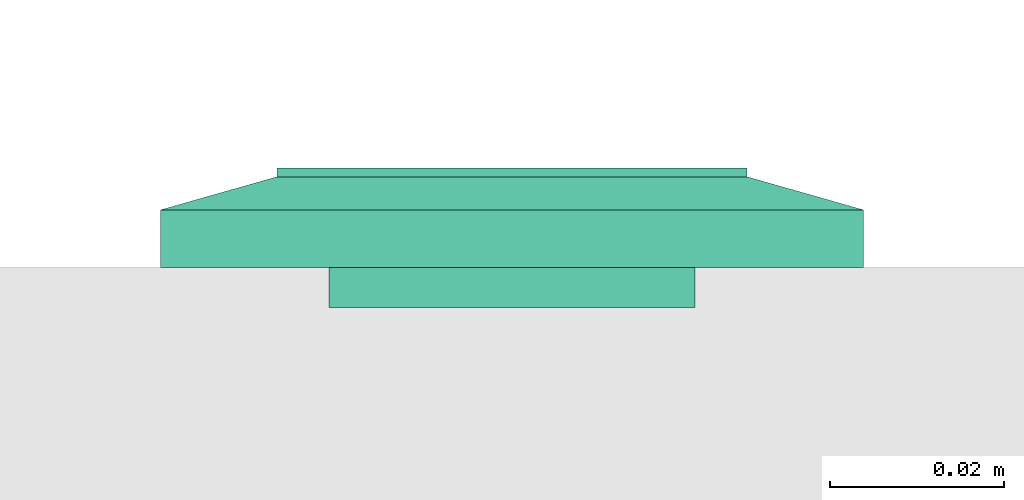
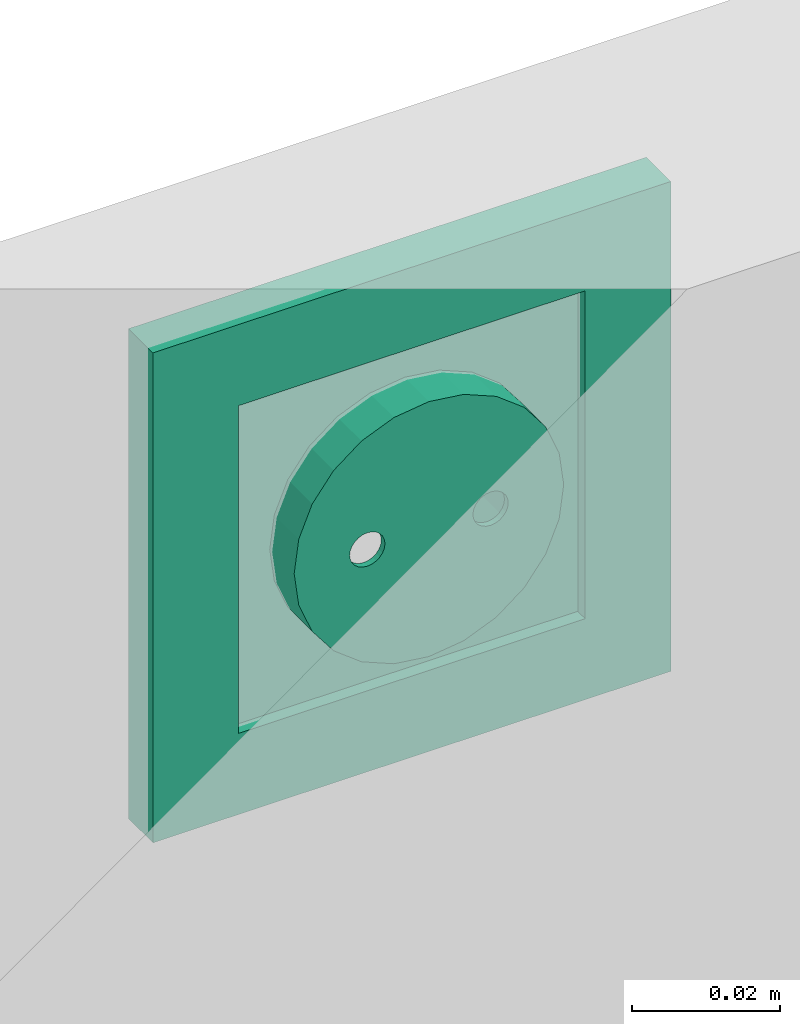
# One storey, part 90 of 153: 1 flow terminal.
"""IFC2X3 building model written with IfcOpenShell, lengths in metres."""

from ifc_helpers import new_model, entity, si_unit, converted_unit, derived_unit, direction, frame, origin, place, context, subcontext, project, spatial, face_set, surface_model, source, transform, mapped, type_object, type_shapes, element, save


model = new_model("IFC2X3")

# Units and contexts
model_context = context("Model", 3, precision=1e-05, world=origin(), true_north=direction((6.12303176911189e-17, 1.0)))
body_context = subcontext(model_context, "Body", "Model", "MODEL_VIEW")
ifc_project = project(units=[si_unit("LENGTHUNIT", "METRE"), si_unit("AREAUNIT", "SQUARE_METRE"), si_unit("VOLUMEUNIT", "CUBIC_METRE"), converted_unit("PLANEANGLEUNIT", "DEGREE", entity("IfcRatioMeasure", 0.0174532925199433), si_unit("PLANEANGLEUNIT", "RADIAN"), dimensions=[0, 0, 0, 0, 0, 0, 0]), si_unit("MASSUNIT", "GRAM", prefix="KILO"), derived_unit("MASSDENSITYUNIT", [(si_unit("MASSUNIT", "GRAM", prefix="KILO"), 1), (si_unit("LENGTHUNIT", "METRE"), -3)]), si_unit("TIMEUNIT", "SECOND"), si_unit("FREQUENCYUNIT", "HERTZ"), si_unit("THERMODYNAMICTEMPERATUREUNIT", "DEGREE_CELSIUS"), derived_unit("THERMALTRANSMITTANCEUNIT", [(si_unit("MASSUNIT", "GRAM", prefix="KILO"), 1), (si_unit("THERMODYNAMICTEMPERATUREUNIT", "KELVIN"), -1), (si_unit("TIMEUNIT", "SECOND"), -3)]), derived_unit("VOLUMETRICFLOWRATEUNIT", [(si_unit("LENGTHUNIT", "METRE"), 3), (si_unit("TIMEUNIT", "SECOND"), -1)]), si_unit("ELECTRICCURRENTUNIT", "AMPERE"), si_unit("ELECTRICVOLTAGEUNIT", "VOLT"), si_unit("POWERUNIT", "WATT"), si_unit("FORCEUNIT", "NEWTON"), si_unit("ILLUMINANCEUNIT", "LUX"), si_unit("LUMINOUSFLUXUNIT", "LUMEN"), si_unit("LUMINOUSINTENSITYUNIT", "CANDELA"), derived_unit("USERDEFINED", [(si_unit("MASSUNIT", "GRAM", prefix="KILO"), -1), (si_unit("LENGTHUNIT", "METRE"), -2), (si_unit("TIMEUNIT", "SECOND"), 3), (si_unit("LUMINOUSFLUXUNIT", "LUMEN"), 1)]), derived_unit("LINEARVELOCITYUNIT", [(si_unit("LENGTHUNIT", "METRE"), 1), (si_unit("TIMEUNIT", "SECOND"), -1)]), si_unit("PRESSUREUNIT", "PASCAL"), derived_unit("USERDEFINED", [(si_unit("LENGTHUNIT", "METRE"), -2), (si_unit("MASSUNIT", "GRAM", prefix="KILO"), 1), (si_unit("TIMEUNIT", "SECOND"), -2)])], contexts=[model_context])

# Site, building, storey
site_placement = place(None, origin())
site = spatial("IfcSite", under=ifc_project, at=site_placement, Name="Default", CompositionType="ELEMENT")
building_placement = place(site_placement, origin())
building = spatial("IfcBuilding", under=site, at=building_placement, CompositionType="ELEMENT")
storey_placement = place(building_placement, frame((0.0, 0.0, -4.62)))
storey = spatial("IfcBuildingStorey", under=building, at=storey_placement, Name="S02", CompositionType="ELEMENT", Elevation=-4.62)

# Flow terminal
light_fixture_type = type_object("IfcLightFixtureType", Name="IP20 ONDULEE", PredefinedType="NOTDEFINED")
shared_shape = source(origin(), body_context, "Body", "SurfaceModel", [
    surface_model("IfcFaceBasedSurfaceModel", [(-0.00225000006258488, 0.0127499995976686, 0.00949633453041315), (0.0, 0.0104999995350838, 0.00949633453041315), (0.0, 0.0115376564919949, 0.0101656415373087), (0.0, 0.0139623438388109, 0.0101656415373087), (0.0, 0.0144589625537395, 0.00984531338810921), (0.0, 0.0121178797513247, 0.0102778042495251), (0.0, 0.0133821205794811, 0.0102778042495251), (0.0, 0.0127499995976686, 0.010399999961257), (0.0, 0.0149999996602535, 0.00949633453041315), (0.00225000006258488, 0.0127499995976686, 0.00949633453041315), (0.0, 0.0110410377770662, 0.00984531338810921), (0.0, 0.0127499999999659, 0.00949633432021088), (0.00225000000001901, 0.0127499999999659, 0.00949633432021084), (0.00217333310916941, 0.0121676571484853, 0.00949633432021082), (0.00194855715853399, 0.0116249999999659, 0.00949633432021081), (0.00159099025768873, 0.0111590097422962, 0.00949633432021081), (0.001125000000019, 0.010801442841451, 0.00949633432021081), (0.00058234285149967, 0.0105766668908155, 0.00949633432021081), (0.0, 0.0104999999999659, 0.00949633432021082), (-0.000582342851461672, 0.0105766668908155, 0.00949633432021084), (-0.001124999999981, 0.010801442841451, 0.00949633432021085), (-0.00159099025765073, 0.0111590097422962, 0.00949633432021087), (-0.00194855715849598, 0.011624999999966, 0.00949633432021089), (-0.0021733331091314, 0.0121676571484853, 0.00949633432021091), (-0.00224999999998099, 0.012749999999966, 0.00949633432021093), (-0.00217333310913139, 0.0133323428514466, 0.00949633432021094), (-0.00194855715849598, 0.013874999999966, 0.00949633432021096), (-0.00159099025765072, 0.0143409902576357, 0.00949633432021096), (-0.00112499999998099, 0.0146985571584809, 0.00949633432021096), (-0.00058234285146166, 0.0149233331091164, 0.00949633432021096), (0.0, 0.0149999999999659, 0.00949633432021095), (0.000582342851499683, 0.0149233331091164, 0.00949633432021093), (0.00112500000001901, 0.0146985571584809, 0.00949633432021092), (0.00159099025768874, 0.0143409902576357, 0.00949633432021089), (0.001948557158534, 0.0138749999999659, 0.00949633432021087), (0.00217333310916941, 0.0133323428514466, 0.00949633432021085), (0.00225000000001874, 0.0127499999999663, -0.00360000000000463), (0.00217333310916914, 0.0121676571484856, -0.00360000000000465), (0.00194855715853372, 0.0116249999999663, -0.00360000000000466), (0.00159099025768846, 0.0111590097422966, -0.00360000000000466), (0.00112500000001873, 0.0108014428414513, -0.00360000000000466), (0.000582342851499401, 0.0105766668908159, -0.00360000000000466), (0.0, 0.0104999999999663, -0.00360000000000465), (-0.000582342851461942, 0.0105766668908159, -0.00360000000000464), (-0.00112499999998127, 0.0108014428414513, -0.00360000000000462), (-0.001590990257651, 0.0111590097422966, -0.0036000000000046), (-0.00194855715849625, 0.0116249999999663, -0.00360000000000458), (-0.00217333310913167, 0.0121676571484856, -0.00360000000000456), (-0.00224999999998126, 0.0127499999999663, -0.00360000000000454), (-0.00217333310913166, 0.013332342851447, -0.00360000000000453), (-0.00194855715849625, 0.0138749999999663, -0.00360000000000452), (-0.00159099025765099, 0.014340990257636, -0.00360000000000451), (-0.00112499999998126, 0.0146985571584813, -0.00360000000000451), (-0.000582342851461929, 0.0149233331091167, -0.00360000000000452), (0.0, 0.0149999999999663, -0.00360000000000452), (0.000582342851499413, 0.0149233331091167, -0.00360000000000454), (0.00112500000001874, 0.0146985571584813, -0.00360000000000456), (0.00159099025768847, 0.014340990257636, -0.00360000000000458), (0.00194855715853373, 0.0138749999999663, -0.0036000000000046), (0.00217333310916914, 0.013332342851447, -0.00360000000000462), (0.0270000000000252, 0.026999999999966, 0.0113999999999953), (-0.0269999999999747, 0.026999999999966, 0.0113999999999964), (-0.0269999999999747, -0.0270000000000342, 0.0113999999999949), (0.0270000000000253, -0.0270000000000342, 0.0113999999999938), (-0.0199999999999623, 0.0, 0.0113999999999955), (-0.0193185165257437, -0.00517638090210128, 0.0113999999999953), (-0.0173205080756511, -0.0100000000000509, 0.0113999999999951), (-0.0141421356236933, -0.0141421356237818, 0.011399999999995), (-0.00999999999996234, -0.0173205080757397, 0.0113999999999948), (-0.00517638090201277, -0.0193185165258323, 0.0113999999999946), (0.0, -0.0200000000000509, 0.0113999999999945), (0.00517638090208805, -0.0193185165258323, 0.0113999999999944), (0.0100000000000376, -0.0173205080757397, 0.0113999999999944), (0.0141421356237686, -0.0141421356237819, 0.0113999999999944), (0.0173205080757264, -0.010000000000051, 0.0113999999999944), (0.0193185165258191, -0.00517638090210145, 0.0113999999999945), (0.0200000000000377, 0.0, 0.0113999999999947), (0.0193185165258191, 0.00517638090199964, 0.0113999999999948), (0.0173205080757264, 0.0099999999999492, 0.011399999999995), (0.0141421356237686, 0.0141421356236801, 0.0113999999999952), (0.0100000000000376, 0.0173205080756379, 0.0113999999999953), (0.00517638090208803, 0.0193185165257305, 0.0113999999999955), (0.0, 0.0199999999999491, 0.0113999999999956), (-0.00517638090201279, 0.0193185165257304, 0.0113999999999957), (-0.00999999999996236, 0.0173205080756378, 0.0113999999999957), (-0.0141421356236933, 0.01414213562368, 0.0113999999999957), (-0.0173205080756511, 0.00999999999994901, 0.0113999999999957), (-0.0193185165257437, 0.00517638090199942, 0.0113999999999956), (0.0270000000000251, 0.0269999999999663, 0.00199999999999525), (0.0270000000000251, -0.0270000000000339, 0.00199999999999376), (-0.0269999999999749, -0.0270000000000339, 0.00199999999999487), (-0.0269999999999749, 0.0269999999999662, 0.00199999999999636), (0.0210000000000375, 0.0, 0.00199999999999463), (0.0202844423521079, -0.00543519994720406, 0.00199999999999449), (0.0181865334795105, -0.0105000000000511, 0.0019999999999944), (0.0148492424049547, -0.0148492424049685, 0.00199999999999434), (0.0105000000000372, -0.0181865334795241, 0.00199999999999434), (0.0054351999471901, -0.0202844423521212, 0.00199999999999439), (0.0, -0.0210000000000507, 0.00199999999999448), (-0.00543519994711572, -0.020284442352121, 0.00199999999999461), (-0.0104999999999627, -0.0181865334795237, 0.00199999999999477), (-0.0148492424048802, -0.014849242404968, 0.00199999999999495), (-0.0181865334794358, -0.0105000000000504, 0.00199999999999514), (-0.020284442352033, -0.00543519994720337, 0.00199999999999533), (-0.0209999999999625, 0.0, 0.00199999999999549), (-0.0202844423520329, 0.0054351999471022, 0.00199999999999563), (-0.0181865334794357, 0.0104999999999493, 0.00199999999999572), (-0.01484924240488, 0.0148492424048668, 0.00199999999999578), (-0.0104999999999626, 0.0181865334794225, 0.00199999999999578), (-0.00543519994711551, 0.0202844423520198, 0.00199999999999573), (0.0, 0.0209999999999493, 0.00199999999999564), (0.00543519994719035, 0.0202844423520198, 0.00199999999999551), (0.0105000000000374, 0.0181865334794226, 0.00199999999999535), (0.0148492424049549, 0.0148492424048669, 0.00199999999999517), (0.0181865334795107, 0.0104999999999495, 0.00199999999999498), (0.0202844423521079, 0.00543519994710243, 0.00199999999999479), (0.0200000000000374, 0.0, -0.00360000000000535), (0.0193185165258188, -0.00517638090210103, -0.00360000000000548), (0.0173205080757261, -0.0100000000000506, -0.00360000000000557), (0.0141421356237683, -0.0141421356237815, -0.00360000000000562), (0.0100000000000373, -0.0173205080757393, -0.00360000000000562), (0.00517638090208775, -0.0193185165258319, -0.00360000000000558), (0.0, -0.0200000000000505, -0.00360000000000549), (-0.00517638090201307, -0.0193185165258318, -0.00360000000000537), (-0.00999999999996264, -0.0173205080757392, -0.00360000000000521), (-0.0141421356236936, -0.0141421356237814, -0.00360000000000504), (-0.0173205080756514, -0.0100000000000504, -0.00360000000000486), (-0.019318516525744, -0.00517638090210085, -0.00360000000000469), (-0.0199999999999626, 0.0, -0.00360000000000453), (-0.0193185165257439, 0.00517638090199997, -0.0036000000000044), (-0.0173205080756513, 0.00999999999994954, -0.00360000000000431), (-0.0141421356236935, 0.0141421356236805, -0.00360000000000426), (-0.00999999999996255, 0.0173205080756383, -0.00360000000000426), (-0.00517638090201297, 0.0193185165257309, -0.0036000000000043), (0.0, 0.0199999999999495, -0.00360000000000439), (0.00517638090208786, 0.0193185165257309, -0.00360000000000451), (0.0100000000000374, 0.0173205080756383, -0.00360000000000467), (0.0141421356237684, 0.0141421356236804, -0.00360000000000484), (0.0173205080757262, 0.0099999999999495, -0.00360000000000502), (0.0193185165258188, 0.00517638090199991, -0.00360000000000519), (-0.0123499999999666, 0.0, -0.00360000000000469), (-0.0122562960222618, -0.000711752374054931, -0.00360000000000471), (-0.0119815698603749, -0.00137500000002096, -0.00360000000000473), (-0.0115445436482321, -0.00194454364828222, -0.00360000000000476), (-0.0109749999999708, -0.00238156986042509, -0.00360000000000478), (-0.0103117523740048, -0.00265629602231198, -0.0036000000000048), (-0.00959999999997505, -0.00275000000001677, -0.00360000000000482), (-0.0088882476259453, -0.00265629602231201, -0.00360000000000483), (-0.00822499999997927, -0.00238156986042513, -0.00360000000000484), (-0.00765545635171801, -0.00194454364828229, -0.00360000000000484), (-0.00721843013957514, -0.00137500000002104, -0.00360000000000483), (-0.00694370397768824, -0.000711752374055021, -0.00360000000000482), (-0.00684999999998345, 0.0, -0.0036000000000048), (-0.00694370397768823, 0.000711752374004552, -0.00360000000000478), (-0.00721843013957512, 0.00137499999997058, -0.00360000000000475), (-0.00765545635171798, 0.00194454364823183, -0.00360000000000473), (-0.00822499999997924, 0.00238156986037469, -0.0036000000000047), (-0.00888824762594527, 0.00265629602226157, -0.00360000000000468), (-0.00959999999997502, 0.00274999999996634, -0.00360000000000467), (-0.0103117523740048, 0.00265629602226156, -0.00360000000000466), (-0.0109749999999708, 0.00238156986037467, -0.00360000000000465), (-0.011544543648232, 0.00194454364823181, -0.00360000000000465), (-0.0119815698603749, 0.00137499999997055, -0.00360000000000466), (-0.0122562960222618, 0.000711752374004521, -0.00360000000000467), (0.00685000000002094, 0.0, -0.00360000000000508), (0.0069437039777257, -0.00071175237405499, -0.0036000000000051), (0.00721843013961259, -0.00137500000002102, -0.00360000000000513), (0.00765545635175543, -0.00194454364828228, -0.00360000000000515), (0.00822500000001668, -0.00238156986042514, -0.00360000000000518), (0.00888824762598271, -0.00265629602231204, -0.0036000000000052), (0.00960000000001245, -0.00275000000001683, -0.00360000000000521), (0.0103117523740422, -0.00265629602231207, -0.00360000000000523), (0.0109750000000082, -0.00238156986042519, -0.00360000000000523), (0.0115445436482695, -0.00194454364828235, -0.00360000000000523), (0.0119815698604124, -0.0013750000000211, -0.00360000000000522), (0.0122562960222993, -0.00071175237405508, -0.00360000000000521), (0.012350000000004, 0.0, -0.00360000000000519), (0.0122562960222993, 0.000711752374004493, -0.00360000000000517), (0.0119815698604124, 0.00137499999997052, -0.00360000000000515), (0.0115445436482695, 0.00194454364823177, -0.00360000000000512), (0.0109750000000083, 0.00238156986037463, -0.0036000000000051), (0.0103117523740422, 0.00265629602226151, -0.00360000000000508), (0.00960000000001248, 0.00274999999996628, -0.00360000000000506), (0.00888824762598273, 0.0026562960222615, -0.00360000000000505), (0.0082250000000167, 0.00238156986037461, -0.00360000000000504), (0.00765545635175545, 0.00194454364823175, -0.00360000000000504), (0.0072184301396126, 0.00137499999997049, -0.00360000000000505), (0.00694370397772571, 0.000711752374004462, -0.00360000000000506), (0.0210000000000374, 0.0, -0.00460000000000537), (0.0202844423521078, -0.00543519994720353, -0.00460000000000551), (0.0181865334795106, -0.0105000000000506, -0.0046000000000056), (0.0148492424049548, -0.0148492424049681, -0.00460000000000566), (0.0105000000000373, -0.0181865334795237, -0.00460000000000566), (0.00543519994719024, -0.0202844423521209, -0.00460000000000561), (0.0, -0.0210000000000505, -0.00460000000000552), (-0.00543519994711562, -0.0202844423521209, -0.00460000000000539), (-0.0104999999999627, -0.0181865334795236, -0.00460000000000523), (-0.0148492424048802, -0.0148492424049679, -0.00460000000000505), (-0.0181865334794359, -0.0105000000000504, -0.00460000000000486), (-0.0202844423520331, -0.00543519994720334, -0.00460000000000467), (-0.0209999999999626, 0.0, -0.00460000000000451), (-0.020284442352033, 0.00543519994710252, -0.00460000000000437), (-0.0181865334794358, 0.0104999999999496, -0.00460000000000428), (-0.0148492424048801, 0.0148492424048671, -0.00460000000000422), (-0.0104999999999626, 0.0181865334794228, -0.00460000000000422), (-0.00543519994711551, 0.02028444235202, -0.00460000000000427), (0.0, 0.0209999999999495, -0.00460000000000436), (0.00543519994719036, 0.02028444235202, -0.00460000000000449), (0.0105000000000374, 0.0181865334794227, -0.00460000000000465), (0.0148492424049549, 0.014849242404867, -0.00460000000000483), (0.0181865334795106, 0.0104999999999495, -0.00460000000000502), (0.0202844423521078, 0.00543519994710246, -0.00460000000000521), (-0.00684999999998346, 0.0, -0.0046000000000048), (-0.00694370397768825, 0.000711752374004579, -0.00460000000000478), (-0.00721843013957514, 0.00137499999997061, -0.00460000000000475), (-0.007655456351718, 0.00194454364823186, -0.00460000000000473), (-0.00822499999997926, 0.00238156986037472, -0.0046000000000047), (-0.00888824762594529, 0.0026562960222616, -0.00460000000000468), (-0.00959999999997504, 0.00274999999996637, -0.00460000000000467), (-0.0103117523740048, 0.00265629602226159, -0.00460000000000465), (-0.0109749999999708, 0.0023815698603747, -0.00460000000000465), (-0.0115445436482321, 0.00194454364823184, -0.00460000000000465), (-0.0119815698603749, 0.00137499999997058, -0.00460000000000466), (-0.0122562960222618, 0.000711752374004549, -0.00460000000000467), (-0.0123499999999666, 0.0, -0.00460000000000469), (-0.0122562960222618, -0.000711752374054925, -0.00460000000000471), (-0.0119815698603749, -0.00137500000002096, -0.00460000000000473), (-0.0115445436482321, -0.00194454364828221, -0.00460000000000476), (-0.0109749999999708, -0.00238156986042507, -0.00460000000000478), (-0.0103117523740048, -0.00265629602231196, -0.0046000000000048), (-0.00959999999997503, -0.00275000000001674, -0.00460000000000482), (-0.00888824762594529, -0.00265629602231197, -0.00460000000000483), (-0.00822499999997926, -0.00238156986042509, -0.00460000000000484), (-0.007655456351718, -0.00194454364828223, -0.00460000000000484), (-0.00721843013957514, -0.00137500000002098, -0.00460000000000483), (-0.00694370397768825, -0.000711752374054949, -0.00460000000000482), (0.012350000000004, 0.0, -0.00460000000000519), (0.0122562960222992, 0.000711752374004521, -0.00460000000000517), (0.0119815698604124, 0.00137499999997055, -0.00460000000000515), (0.0115445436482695, 0.0019445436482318, -0.00460000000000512), (0.0109750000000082, 0.00238156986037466, -0.0046000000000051), (0.0103117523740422, 0.00265629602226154, -0.00460000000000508), (0.00960000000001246, 0.00274999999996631, -0.00460000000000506), (0.00888824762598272, 0.00265629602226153, -0.00460000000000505), (0.00822500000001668, 0.00238156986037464, -0.00460000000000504), (0.00765545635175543, 0.00194454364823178, -0.00460000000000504), (0.00721843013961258, 0.00137499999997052, -0.00460000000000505), (0.00694370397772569, 0.00071175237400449, -0.00460000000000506), (0.00685000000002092, 0.0, -0.00460000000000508), (0.00694370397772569, -0.000711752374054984, -0.0046000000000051), (0.00721843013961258, -0.00137500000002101, -0.00460000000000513), (0.00765545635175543, -0.00194454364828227, -0.00460000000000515), (0.00822500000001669, -0.00238156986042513, -0.00460000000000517), (0.00888824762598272, -0.00265629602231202, -0.0046000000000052), (0.00960000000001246, -0.0027500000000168, -0.00460000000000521), (0.0103117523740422, -0.00265629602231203, -0.00460000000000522), (0.0109750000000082, -0.00238156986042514, -0.00460000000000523), (0.0115445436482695, -0.00194454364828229, -0.00460000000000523), (0.0119815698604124, -0.00137500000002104, -0.00460000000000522), (0.0122562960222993, -0.000711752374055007, -0.00460000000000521), (0.040350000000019, 0.0403499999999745, 0.00659999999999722), (0.040350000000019, -0.0403500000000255, 0.00659999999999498), (-0.0403499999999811, -0.0403500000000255, 0.00659999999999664), (-0.0403499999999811, 0.0403499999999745, 0.00659999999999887), (0.027000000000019, 0.0269999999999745, 0.00659999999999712), (-0.0269999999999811, 0.0269999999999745, 0.00659999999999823), (-0.026999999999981, -0.0270000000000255, 0.00659999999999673), (0.027000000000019, -0.0270000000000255, 0.00659999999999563), (0.027000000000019, 0.0269999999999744, 0.0103999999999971), (-0.026999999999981, 0.0269999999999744, 0.0103999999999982), (-0.026999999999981, -0.0270000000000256, 0.0103999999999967), (0.027000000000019, -0.0270000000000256, 0.0103999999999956), (0.040350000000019, 0.0403499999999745, 0.00659999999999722), (0.040350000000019, -0.0403500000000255, 0.00659999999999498), (-0.0403499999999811, -0.0403500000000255, 0.00659999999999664), (-0.0403499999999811, 0.0403499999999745, 0.00659999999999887), (-0.0269999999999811, 0.0269999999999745, 0.00659999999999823), (-0.0269999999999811, -0.0270000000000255, 0.00659999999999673), (0.0270000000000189, -0.0270000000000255, 0.00659999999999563), (0.0270000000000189, 0.0269999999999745, 0.00659999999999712), (0.0403500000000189, 0.0403499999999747, 0.0), (0.0403500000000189, -0.0403500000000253, 0.0), (-0.0403499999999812, -0.0403500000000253, 0.0), (-0.0403499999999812, 0.0403499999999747, 0.0), (0.0270000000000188, 0.0269999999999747, 0.0), (-0.0269999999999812, 0.0269999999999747, 0.0), (-0.0269999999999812, -0.0270000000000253, 0.0), (0.0270000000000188, -0.0270000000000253, 0.0)], [face_set([[[0, 1, 2]], [[3, 4, 2, 5]], [[6, 3, 5, 7]], [[2, 4, 0]], [[4, 8, 0]], [[3, 9, 8]], [[1, 9, 10]], [[2, 3, 6, 7]], [[3, 10, 9]], [[2, 10, 3]], [[11, 1, 0, 8]], [[11, 8, 9, 1]]]), face_set([[[12, 13, 14, 15, 16, 17, 18, 19, 20, 21, 22, 23, 24, 25, 26, 27, 28, 29, 30, 31, 32, 33, 34, 35]], [[36, 37, 38, 39, 40, 41, 42, 43, 44, 45, 46, 47, 48, 49, 50, 51, 52, 53, 54, 55, 56, 57, 58, 59]], [[48, 47, 23, 24]], [[47, 46, 22, 23]], [[45, 44, 20, 21]], [[46, 45, 21, 22]], [[44, 43, 19, 20]], [[18, 19, 43, 42]], [[42, 41, 17, 18]], [[41, 40, 16, 17]], [[39, 38, 14, 15]], [[40, 39, 15, 16]], [[38, 37, 13, 14]], [[12, 13, 37, 36]], [[36, 59, 35, 12]], [[59, 58, 34, 35]], [[57, 56, 32, 33]], [[58, 57, 33, 34]], [[56, 55, 31, 32]], [[30, 31, 55, 54]], [[54, 53, 29, 30]], [[53, 52, 28, 29]], [[51, 50, 26, 27]], [[52, 51, 27, 28]], [[50, 49, 25, 26]], [[24, 25, 49, 48]]]), face_set([[[60, 61, 62, 63], [64, 65, 66, 67, 68, 69, 70, 71, 72, 73, 74, 75, 76, 77, 78, 79, 80, 81, 82, 83, 84, 85, 86, 87]], [[88, 89, 90, 91], [92, 93, 94, 95, 96, 97, 98, 99, 100, 101, 102, 103, 104, 105, 106, 107, 108, 109, 110, 111, 112, 113, 114, 115]], [[61, 60, 88, 91]], [[62, 61, 91, 90]], [[63, 62, 90, 89]], [[60, 63, 89, 88]], [[116, 117, 118, 119, 120, 121, 122, 123, 124, 125, 126, 127, 128, 129, 130, 131, 132, 133, 134, 135, 136, 137, 138, 139], [140, 141, 142, 143, 144, 145, 146, 147, 148, 149, 150, 151, 152, 153, 154, 155, 156, 157, 158, 159, 160, 161, 162, 163], [164, 165, 166, 167, 168, 169, 170, 171, 172, 173, 174, 175, 176, 177, 178, 179, 180, 181, 182, 183, 184, 185, 186, 187]], [[64, 128, 127, 65]], [[65, 127, 126, 66]], [[67, 125, 124, 68]], [[66, 126, 125, 67]], [[68, 124, 123, 69]], [[122, 70, 69, 123]], [[70, 122, 121, 71]], [[71, 121, 120, 72]], [[73, 119, 118, 74]], [[72, 120, 119, 73]], [[74, 118, 117, 75]], [[116, 76, 75, 117]], [[76, 116, 139, 77]], [[77, 139, 138, 78]], [[79, 137, 136, 80]], [[78, 138, 137, 79]], [[80, 136, 135, 81]], [[134, 82, 81, 135]], [[82, 134, 133, 83]], [[83, 133, 132, 84]], [[84, 132, 131, 85]], [[85, 131, 130, 86]], [[130, 129, 87, 86]], [[64, 87, 129, 128]], [[188, 189, 190, 191, 192, 193, 194, 195, 196, 197, 198, 199, 200, 201, 202, 203, 204, 205, 206, 207, 208, 209, 210, 211], [212, 213, 214, 215, 216, 217, 218, 219, 220, 221, 222, 223, 224, 225, 226, 227, 228, 229, 230, 231, 232, 233, 234, 235], [236, 237, 238, 239, 240, 241, 242, 243, 244, 245, 246, 247, 248, 249, 250, 251, 252, 253, 254, 255, 256, 257, 258, 259]], [[200, 199, 103, 104]], [[199, 198, 102, 103]], [[197, 196, 100, 101]], [[198, 197, 101, 102]], [[196, 195, 99, 100]], [[98, 99, 195, 194]], [[194, 193, 97, 98]], [[193, 192, 96, 97]], [[191, 190, 94, 95]], [[192, 191, 95, 96]], [[190, 189, 93, 94]], [[92, 93, 189, 188]], [[188, 211, 115, 92]], [[211, 210, 114, 115]], [[209, 208, 112, 113]], [[210, 209, 113, 114]], [[208, 207, 111, 112]], [[110, 111, 207, 206]], [[206, 205, 109, 110]], [[205, 204, 108, 109]], [[203, 202, 106, 107]], [[204, 203, 107, 108]], [[202, 201, 105, 106]], [[104, 105, 201, 200]], [[141, 225, 226, 142]], [[140, 224, 225, 141]], [[144, 228, 229, 145]], [[143, 227, 228, 144]], [[142, 226, 227, 143]], [[230, 146, 145, 229]], [[149, 233, 232, 148]], [[148, 232, 231, 147]], [[152, 212, 235, 151]], [[151, 235, 234, 150]], [[150, 234, 233, 149]], [[146, 230, 231, 147]], [[154, 214, 213, 153]], [[153, 213, 212, 152]], [[157, 217, 216, 156]], [[156, 216, 215, 155]], [[155, 215, 214, 154]], [[218, 158, 157, 217]], [[160, 220, 221, 161]], [[159, 219, 220, 160]], [[163, 223, 224, 140]], [[162, 222, 223, 163]], [[161, 221, 222, 162]], [[158, 218, 219, 159]], [[166, 250, 249, 165]], [[165, 249, 248, 164]], [[169, 253, 252, 168]], [[168, 252, 251, 167]], [[167, 251, 250, 166]], [[254, 170, 169, 253]], [[172, 256, 257, 173]], [[171, 255, 256, 172]], [[175, 259, 236, 176]], [[174, 258, 259, 175]], [[173, 257, 258, 174]], [[170, 254, 255, 171]], [[177, 237, 238, 178]], [[176, 236, 237, 177]], [[180, 240, 241, 181]], [[179, 239, 240, 180]], [[178, 238, 239, 179]], [[242, 182, 181, 241]], [[185, 245, 244, 184]], [[184, 244, 243, 183]], [[164, 248, 247, 187]], [[187, 247, 246, 186]], [[186, 246, 245, 185]], [[182, 242, 243, 183]]]), face_set([[[260, 261, 262, 263], [264, 265, 266, 267]], [[260, 268, 269, 263]], [[263, 269, 270, 262]], [[262, 270, 271, 261]], [[261, 271, 268, 260]], [[264, 265, 269, 268]], [[265, 266, 270, 269]], [[266, 267, 271, 270]], [[268, 271, 267, 264]]]), face_set([[[272, 273, 274, 275], [276, 277, 278, 279]], [[280, 281, 282, 283], [284, 285, 286, 287]], [[275, 272, 280, 283]], [[274, 275, 283, 282]], [[273, 274, 282, 281]], [[272, 273, 281, 280]], [[284, 285, 276, 279]], [[285, 286, 277, 276]], [[286, 287, 278, 277]], [[279, 278, 287, 284]]])]),
])
type_shapes(light_fixture_type, [shared_shape])
flow_terminal_placement = place(building_placement, frame((51.8748816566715, -189.113069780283, -4.18699999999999), z_axis=(0.0, 1.0, 0.0), x_axis=(-1.0, 0.0, 0.0)))
element("IfcFlowTerminal", 1, at=flow_terminal_placement, inside=storey, type_object=light_fixture_type, Name="INT Prise de courant:IP20 ONDULEE", ObjectType="INT Prise de courant:IP20 ONDULEE", context=body_context, shape_type="MappedRepresentation", body=[
    mapped(shared_shape, transform((0.0, 0.0, 0.0), scale=1.0)),
])

save(model, "model.ifc")
